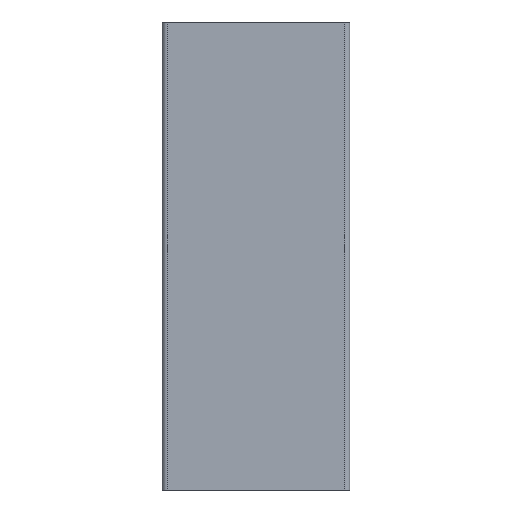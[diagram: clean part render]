
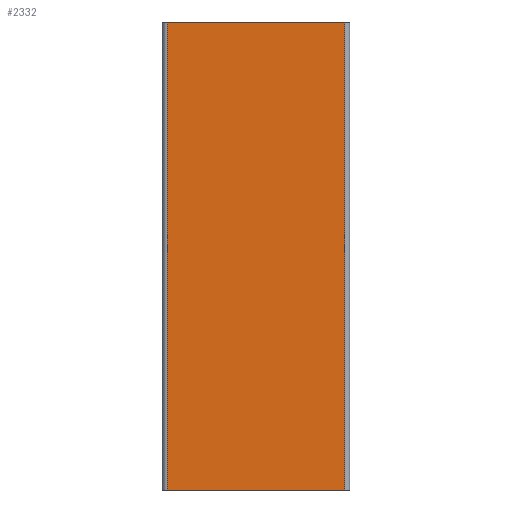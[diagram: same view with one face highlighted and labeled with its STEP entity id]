
A CAD part, left-side view. The second image highlights one B-rep face of the part: STEP entity #2332.
In plain terms, the highlighted planar face has unit normal (-1, 0, 0).
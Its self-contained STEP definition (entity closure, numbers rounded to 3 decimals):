
#78=PLANE('',#2633);
#195=FACE_OUTER_BOUND('',#318,.T.);
#318=EDGE_LOOP('',(#2099,#2100,#2101,#2102));
#532=LINE('',#4004,#757);
#533=LINE('',#4009,#758);
#534=LINE('',#4012,#759);
#535=LINE('',#4013,#760);
#757=VECTOR('',#3297,10.);
#758=VECTOR('',#3304,10.);
#759=VECTOR('',#3307,10.);
#760=VECTOR('',#3308,10.);
#1117=VERTEX_POINT('',#4001);
#1118=VERTEX_POINT('',#4003);
#1119=VERTEX_POINT('',#4007);
#1120=VERTEX_POINT('',#4011);
#1448=EDGE_CURVE('',#1117,#1118,#532,.T.);
#1451=EDGE_CURVE('',#1118,#1119,#533,.T.);
#1452=EDGE_CURVE('',#1120,#1117,#534,.T.);
#1453=EDGE_CURVE('',#1120,#1119,#535,.T.);
#2099=ORIENTED_EDGE('',*,*,#1451,.F.);
#2100=ORIENTED_EDGE('',*,*,#1448,.F.);
#2101=ORIENTED_EDGE('',*,*,#1452,.F.);
#2102=ORIENTED_EDGE('',*,*,#1453,.T.);
#2332=ADVANCED_FACE('',(#195),#78,.T.);
#2633=AXIS2_PLACEMENT_3D('',#4010,#3305,#3306);
#3297=DIRECTION('',(0.,1.,0.));
#3304=DIRECTION('',(0.,0.,1.));
#3305=DIRECTION('center_axis',(-1.,0.,0.));
#3306=DIRECTION('ref_axis',(0.,0.,1.));
#3307=DIRECTION('',(0.,0.,-1.));
#3308=DIRECTION('',(0.,1.,0.));
#4001=CARTESIAN_POINT('',(-5.604,-19.,0.));
#4003=CARTESIAN_POINT('',(-5.604,19.,0.));
#4004=CARTESIAN_POINT('',(-5.604,-10.,0.));
#4007=CARTESIAN_POINT('',(-5.604,19.,100.));
#4009=CARTESIAN_POINT('',(-5.604,19.,0.));
#4010=CARTESIAN_POINT('Origin',(-5.604,-20.,0.));
#4011=CARTESIAN_POINT('',(-5.604,-19.,100.));
#4012=CARTESIAN_POINT('',(-5.604,-19.,0.));
#4013=CARTESIAN_POINT('',(-5.604,-10.,100.));
